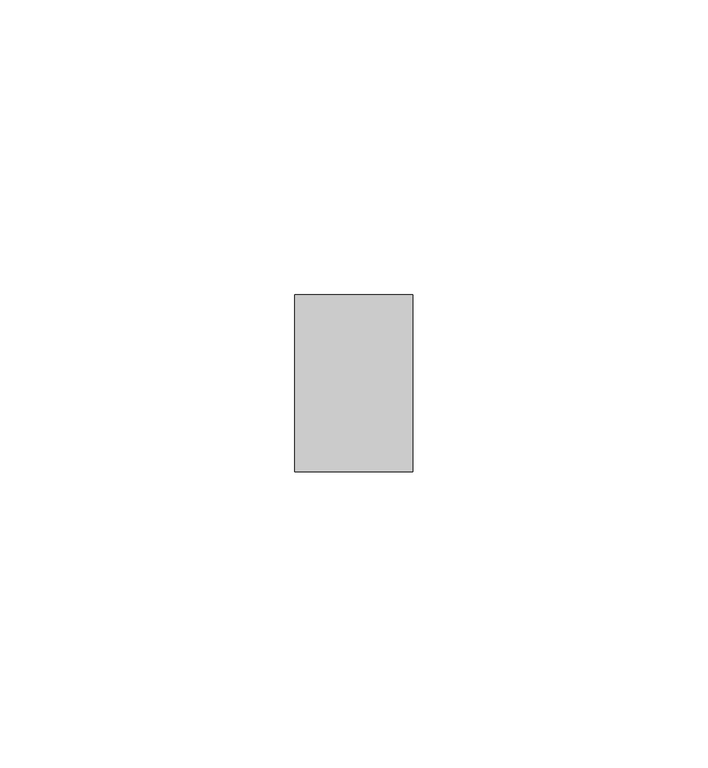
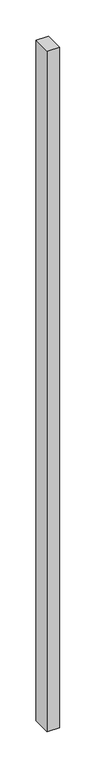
"""IFC4 building model written with IfcOpenShell, lengths in millimetres: member geometry, Прямоугольный импост : Квадрат 10 мм - Зазор между навесными плитами."""

from ifc_helpers import new_model, si_unit, frame, origin, place, context, project, spatial, polyline, outline, extrude, source, transform, mapped, element, save


def member_939e1046(model_context):
    return source(origin(), model_context, "Body", "SweptSolid", [
        extrude(outline(polyline([(0.0, 15.0), (0.0, -15.0), (-20.0, -15.0), (-20.0, 15.0), (0.0, 15.0)])), frame((0.0, 0.0, -1143.2685202), z_axis=(0.0, 0.0, 1.0), x_axis=(1.0, 0.0, 0.0)), (0.0, 0.0, 1.0), 1143.2685202),
    ])


if __name__ == "__main__":
    model = new_model("IFC4")
    model_context = context("Model", 3, world=origin())
    ifc_project = project(units=[si_unit("LENGTHUNIT", "METRE", prefix="MILLI")], contexts=[model_context])
    site = spatial("IfcSite", under=ifc_project)
    building = spatial("IfcBuilding", under=site)
    placement = place(None, origin())
    member_shape = member_939e1046(model_context)
    element("IfcMember", 1, ObjectType="Прямоугольный импост : Квадрат 10 мм - Зазор между навесными плитами", at=placement, inside=building, context=model_context, shape_type="MappedRepresentation", body=[
        mapped(member_shape, transform((0.0, 0.0, 0.0), x_axis=(1.0, 0.0, 0.0), y_axis=(0.0, 1.0, 0.0), z_axis=(0.0, 0.0, 1.0))),
    ])
    save(model, "model.ifc")
